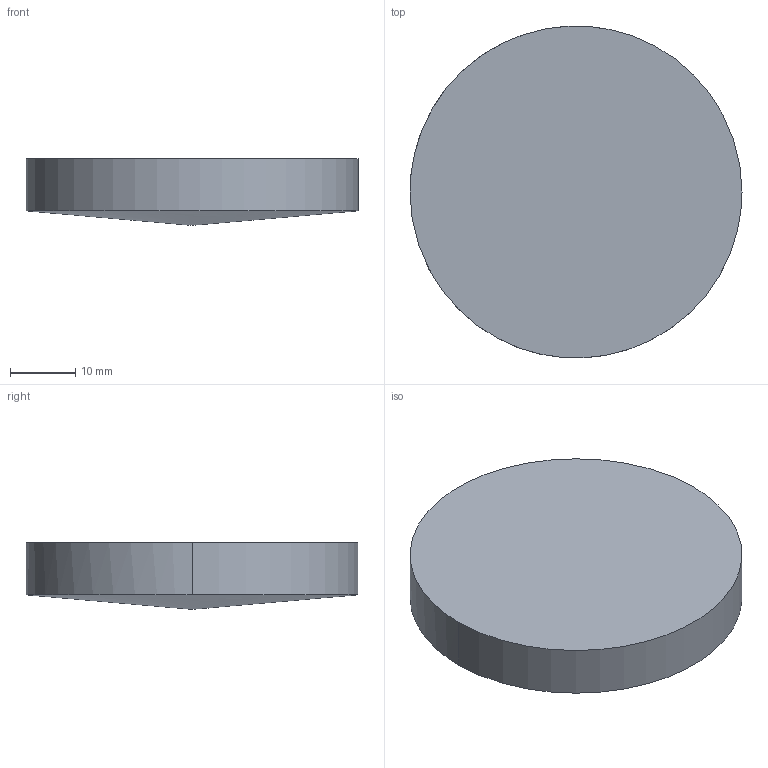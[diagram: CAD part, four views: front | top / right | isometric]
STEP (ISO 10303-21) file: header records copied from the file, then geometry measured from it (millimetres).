
FILE_DESCRIPTION ((), '1');
FILE_NAME ('\\fileserver\Daten\Applikationen\Optikdesign\SPA-Design\aktuelle SPA-Designs\Linsenkataloge - 2016-Juni\Zemax\XFL\XFL50-050.STP', '2016-05-24T14:29:57', ('Unknown'), ('Unknown'), 'HarmonyWare STEP v2.0.1', 'HarmonyWare Translators', '');
FILE_SCHEMA (('CONFIG_CONTROL_DESIGN'));
Length unit declared in the file: millimetre
Products named in the file (1): NONE
Bounding box: 50.8 x 50.77 x 10.22 mm (x, y, z)
Volume: 17722.6 mm3; surface area: 5340.5 mm2
Topology: 1 solids, 1 shells, 4 faces, 9 edges, 6 vertices
Faces by surface type: cylinder 2, bspline 1, plane 1
Entity records: 285 total; most frequent: CARTESIAN_POINT 134, ORIENTED_EDGE 16, EDGE_CURVE 8, PERSON 8, ORGANIZATION 8, PERSON_AND_ORGANIZATION 8, VERTEX_POINT 6, DIRECTION 6
